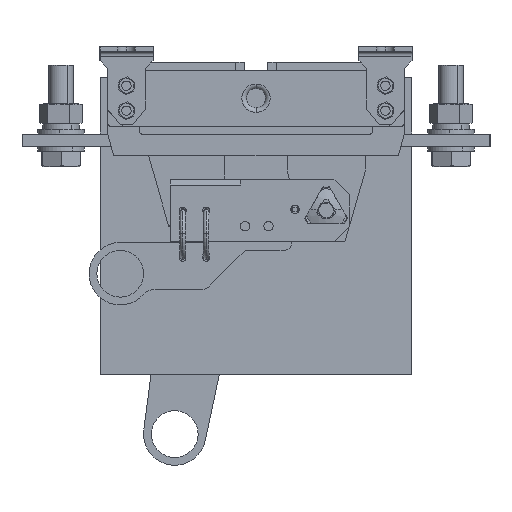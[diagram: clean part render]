
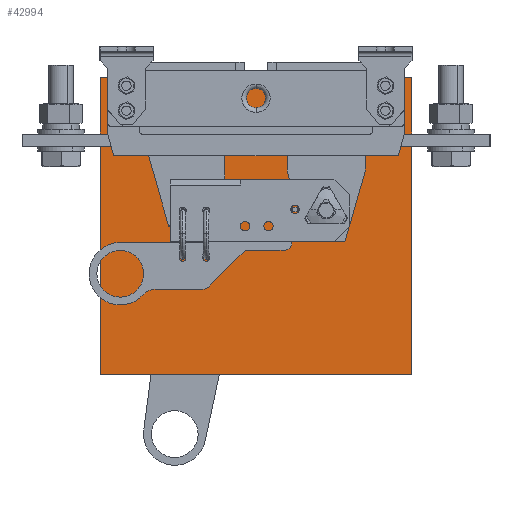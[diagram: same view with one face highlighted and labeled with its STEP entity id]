
A CAD part, left-side view. The second image highlights one B-rep face of the part: STEP entity #42994.
In plain terms, the highlighted planar face has unit normal (-1, 0, 0).
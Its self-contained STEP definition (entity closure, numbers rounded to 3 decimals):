
#490 = VECTOR ( 'NONE', #25374, 1000. ) ;
#1216 = EDGE_CURVE ( 'NONE', #13108, #34649, #15263, .T. ) ;
#1503 = ORIENTED_EDGE ( 'NONE', *, *, #53569, .F. ) ;
#2711 = CIRCLE ( 'NONE', #41272, 3.5 ) ;
#3497 = EDGE_LOOP ( 'NONE', ( #60553, #58637, #20512, #41124 ) ) ;
#4091 = CARTESIAN_POINT ( 'NONE',  ( -51., -79.5, -8. ) ) ;
#4878 = DIRECTION ( 'NONE',  ( 0., -1., 0. ) ) ;
#4998 = CARTESIAN_POINT ( 'NONE',  ( -51., 54.985, 13. ) ) ;
#5555 = CIRCLE ( 'NONE', #49030, 3.5 ) ;
#5812 = DIRECTION ( 'NONE',  ( 0., 1., 0. ) ) ;
#6700 = CARTESIAN_POINT ( 'NONE',  ( -51., 79.5, -8. ) ) ;
#6993 = FACE_OUTER_BOUND ( 'NONE', #3497, .T. ) ;
#7352 = AXIS2_PLACEMENT_3D ( 'NONE', #33174, #8217, #8839 ) ;
#8066 = DIRECTION ( 'NONE',  ( 0., 0., 1. ) ) ;
#8094 = LINE ( 'NONE', #54153, #490 ) ;
#8217 = DIRECTION ( 'NONE',  ( -1., 0., 0. ) ) ;
#8275 = CARTESIAN_POINT ( 'NONE',  ( -51., -100., -155. ) ) ;
#8839 = DIRECTION ( 'NONE',  ( 0., -1., 0. ) ) ;
#9821 = DIRECTION ( 'NONE',  ( 0., 1., 0. ) ) ;
#10375 = CARTESIAN_POINT ( 'NONE',  ( -51., 83., 8. ) ) ;
#10754 = FACE_BOUND ( 'NONE', #24371, .T. ) ;
#12392 = ORIENTED_EDGE ( 'NONE', *, *, #48767, .F. ) ;
#13108 = VERTEX_POINT ( 'NONE', #4091 ) ;
#13325 = DIRECTION ( 'NONE',  ( -1., 0., 0. ) ) ;
#13483 = VECTOR ( 'NONE', #8066, 1000. ) ;
#13856 = DIRECTION ( 'NONE',  ( -1., 0., 0. ) ) ;
#14709 = ORIENTED_EDGE ( 'NONE', *, *, #1216, .F. ) ;
#15263 = CIRCLE ( 'NONE', #17263, 3.5 ) ;
#15312 = EDGE_CURVE ( 'NONE', #62768, #47645, #8094, .T. ) ;
#15426 = VERTEX_POINT ( 'NONE', #6700 ) ;
#16376 = AXIS2_PLACEMENT_3D ( 'NONE', #10375, #20159, #24187 ) ;
#16462 = CARTESIAN_POINT ( 'NONE',  ( -51., 83., -8. ) ) ;
#17263 = AXIS2_PLACEMENT_3D ( 'NONE', #42289, #13325, #56915 ) ;
#17399 = CARTESIAN_POINT ( 'NONE',  ( -51., -83., 8. ) ) ;
#18031 = VERTEX_POINT ( 'NONE', #61703 ) ;
#18216 = CARTESIAN_POINT ( 'NONE',  ( -51., 79.5, 8. ) ) ;
#18741 = VERTEX_POINT ( 'NONE', #44280 ) ;
#19519 = CARTESIAN_POINT ( 'NONE',  ( -51., -86.5, 8. ) ) ;
#20159 = DIRECTION ( 'NONE',  ( -1., 0., 0. ) ) ;
#20512 = ORIENTED_EDGE ( 'NONE', *, *, #57427, .T. ) ;
#21034 = LINE ( 'NONE', #8275, #13483 ) ;
#22931 = FACE_BOUND ( 'NONE', #35621, .T. ) ;
#23313 = CARTESIAN_POINT ( 'NONE',  ( -51., 100., -177. ) ) ;
#23586 = CARTESIAN_POINT ( 'NONE',  ( -51., 83., 8. ) ) ;
#23735 = EDGE_LOOP ( 'NONE', ( #45313, #12392 ) ) ;
#24187 = DIRECTION ( 'NONE',  ( 0., -1., 0. ) ) ;
#24371 = EDGE_LOOP ( 'NONE', ( #14709, #42124 ) ) ;
#24489 = CARTESIAN_POINT ( 'NONE',  ( -51., -86.5, -8. ) ) ;
#24604 = VECTOR ( 'NONE', #25545, 1000. ) ;
#24718 = CIRCLE ( 'NONE', #16376, 3.5 ) ;
#25066 = VERTEX_POINT ( 'NONE', #18216 ) ;
#25374 = DIRECTION ( 'NONE',  ( 0., -1., 0. ) ) ;
#25545 = DIRECTION ( 'NONE',  ( 0., 0., -1. ) ) ;
#25984 = CARTESIAN_POINT ( 'NONE',  ( -51., 86.5, -8. ) ) ;
#26060 = VERTEX_POINT ( 'NONE', #29578 ) ;
#27174 = DIRECTION ( 'NONE',  ( 0., 1., 0. ) ) ;
#28442 = CARTESIAN_POINT ( 'NONE',  ( -51., 86.5, 8. ) ) ;
#29578 = CARTESIAN_POINT ( 'NONE',  ( -51., -79.5, 8. ) ) ;
#29601 = EDGE_CURVE ( 'NONE', #18031, #18741, #61433, .T. ) ;
#29634 = VECTOR ( 'NONE', #5812, 1000. ) ;
#29959 = CARTESIAN_POINT ( 'NONE',  ( -51., -100., -177. ) ) ;
#30196 = CARTESIAN_POINT ( 'NONE',  ( -51., 100., -155. ) ) ;
#30466 = DIRECTION ( 'NONE',  ( -1., 0., 0. ) ) ;
#30635 = AXIS2_PLACEMENT_3D ( 'NONE', #53196, #53840, #9821 ) ;
#31266 = DIRECTION ( 'NONE',  ( 0., 1., 0. ) ) ;
#31355 = ORIENTED_EDGE ( 'NONE', *, *, #41823, .F. ) ;
#32556 = VERTEX_POINT ( 'NONE', #28442 ) ;
#33174 = CARTESIAN_POINT ( 'NONE',  ( -51., 83., -8. ) ) ;
#33873 = CIRCLE ( 'NONE', #48306, 3.5 ) ;
#34649 = VERTEX_POINT ( 'NONE', #24489 ) ;
#35621 = EDGE_LOOP ( 'NONE', ( #40517, #31355 ) ) ;
#36474 = FACE_BOUND ( 'NONE', #41863, .T. ) ;
#39529 = PLANE ( 'NONE',  #44351 ) ;
#40373 = CARTESIAN_POINT ( 'NONE',  ( -51., -83., 8. ) ) ;
#40517 = ORIENTED_EDGE ( 'NONE', *, *, #59307, .F. ) ;
#41124 = ORIENTED_EDGE ( 'NONE', *, *, #15312, .T. ) ;
#41272 = AXIS2_PLACEMENT_3D ( 'NONE', #40373, #30466, #31266 ) ;
#41823 = EDGE_CURVE ( 'NONE', #45835, #15426, #53457, .T. ) ;
#41863 = EDGE_LOOP ( 'NONE', ( #49519, #1503 ) ) ;
#42124 = ORIENTED_EDGE ( 'NONE', *, *, #44884, .F. ) ;
#42289 = CARTESIAN_POINT ( 'NONE',  ( -51., -83., -8. ) ) ;
#42994 = ADVANCED_FACE ( 'NONE', ( #10754, #22931, #36474, #50893, #6993 ), #39529, .T. ) ;
#44280 = CARTESIAN_POINT ( 'NONE',  ( -51., 100., 13. ) ) ;
#44351 = AXIS2_PLACEMENT_3D ( 'NONE', #44426, #58842, #4878 ) ;
#44426 = CARTESIAN_POINT ( 'NONE',  ( -51., 0., -178. ) ) ;
#44884 = EDGE_CURVE ( 'NONE', #34649, #13108, #49665, .T. ) ;
#45313 = ORIENTED_EDGE ( 'NONE', *, *, #57756, .F. ) ;
#45835 = VERTEX_POINT ( 'NONE', #25984 ) ;
#46019 = DIRECTION ( 'NONE',  ( -1., 0., 0. ) ) ;
#46747 = AXIS2_PLACEMENT_3D ( 'NONE', #16462, #46019, #50055 ) ;
#47477 = DIRECTION ( 'NONE',  ( 0., -1., 0. ) ) ;
#47645 = VERTEX_POINT ( 'NONE', #29959 ) ;
#48306 = AXIS2_PLACEMENT_3D ( 'NONE', #17399, #56104, #27174 ) ;
#48767 = EDGE_CURVE ( 'NONE', #32556, #25066, #24718, .T. ) ;
#49030 = AXIS2_PLACEMENT_3D ( 'NONE', #23586, #13856, #47477 ) ;
#49519 = ORIENTED_EDGE ( 'NONE', *, *, #56995, .F. ) ;
#49665 = CIRCLE ( 'NONE', #30635, 3.5 ) ;
#50055 = DIRECTION ( 'NONE',  ( 0., -1., 0. ) ) ;
#50288 = LINE ( 'NONE', #30196, #24604 ) ;
#50893 = FACE_BOUND ( 'NONE', #23735, .T. ) ;
#53196 = CARTESIAN_POINT ( 'NONE',  ( -51., -83., -8. ) ) ;
#53457 = CIRCLE ( 'NONE', #7352, 3.5 ) ;
#53470 = EDGE_CURVE ( 'NONE', #47645, #18031, #21034, .T. ) ;
#53569 = EDGE_CURVE ( 'NONE', #53624, #26060, #33873, .T. ) ;
#53624 = VERTEX_POINT ( 'NONE', #19519 ) ;
#53840 = DIRECTION ( 'NONE',  ( -1., 0., 0. ) ) ;
#54153 = CARTESIAN_POINT ( 'NONE',  ( -51., 7.937, -177. ) ) ;
#55144 = CIRCLE ( 'NONE', #46747, 3.5 ) ;
#56104 = DIRECTION ( 'NONE',  ( -1., 0., 0. ) ) ;
#56915 = DIRECTION ( 'NONE',  ( 0., 1., 0. ) ) ;
#56995 = EDGE_CURVE ( 'NONE', #26060, #53624, #2711, .T. ) ;
#57427 = EDGE_CURVE ( 'NONE', #18741, #62768, #50288, .T. ) ;
#57756 = EDGE_CURVE ( 'NONE', #25066, #32556, #5555, .T. ) ;
#58637 = ORIENTED_EDGE ( 'NONE', *, *, #29601, .T. ) ;
#58842 = DIRECTION ( 'NONE',  ( -1., 0., 0. ) ) ;
#59307 = EDGE_CURVE ( 'NONE', #15426, #45835, #55144, .T. ) ;
#60553 = ORIENTED_EDGE ( 'NONE', *, *, #53470, .T. ) ;
#61433 = LINE ( 'NONE', #4998, #29634 ) ;
#61703 = CARTESIAN_POINT ( 'NONE',  ( -51., -100., 13. ) ) ;
#62768 = VERTEX_POINT ( 'NONE', #23313 ) ;
